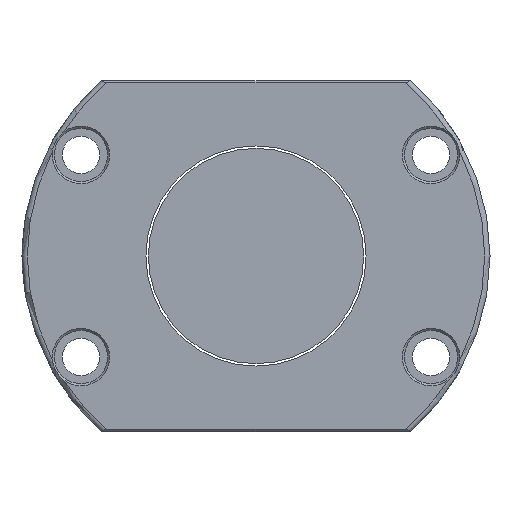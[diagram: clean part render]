
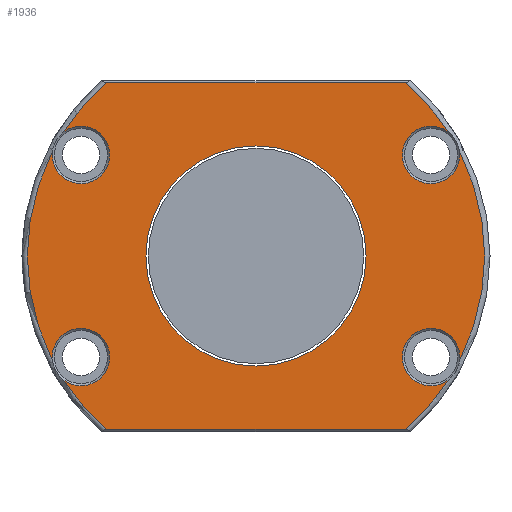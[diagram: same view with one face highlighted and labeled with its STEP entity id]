
A CAD part, left-side view. The second image highlights one B-rep face of the part: STEP entity #1936.
In plain terms, the highlighted planar face has unit normal (-1, 0, 0).
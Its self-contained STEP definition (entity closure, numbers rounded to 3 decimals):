
#54 = CARTESIAN_POINT ( 'NONE',  ( -105., -65.818, 38. ) ) ;
#88 = VERTEX_POINT ( 'NONE', #2648 ) ;
#92 = DIRECTION ( 'NONE',  ( -1., 0., 0. ) ) ;
#149 = EDGE_CURVE ( 'NONE', #1077, #3743, #2205, .T. ) ;
#151 = DIRECTION ( 'NONE',  ( 1., 0., 0. ) ) ;
#217 = DIRECTION ( 'NONE',  ( 1., 0., 0. ) ) ;
#225 = CIRCLE ( 'NONE', #3300, 10.8 ) ;
#247 = DIRECTION ( 'NONE',  ( -1., 0., 0. ) ) ;
#277 = CARTESIAN_POINT ( 'NONE',  ( -105., -76.552, -39.189 ) ) ;
#289 = DIRECTION ( 'NONE',  ( 0., 0., 1. ) ) ;
#298 = CARTESIAN_POINT ( 'NONE',  ( -105., -72.214, 46.702 ) ) ;
#299 = EDGE_CURVE ( 'NONE', #2656, #3572, #2005, .T. ) ;
#314 = DIRECTION ( 'NONE',  ( 1., 0., 0. ) ) ;
#399 = LINE ( 'NONE', #3733, #3169 ) ;
#447 = VERTEX_POINT ( 'NONE', #2845 ) ;
#470 = CARTESIAN_POINT ( 'NONE',  ( -105., 0., 0. ) ) ;
#520 = AXIS2_PLACEMENT_3D ( 'NONE', #3005, #3563, #1480 ) ;
#587 = PLANE ( 'NONE',  #1824 ) ;
#615 = DIRECTION ( 'NONE',  ( 0., 0., 1. ) ) ;
#846 = VERTEX_POINT ( 'NONE', #1829 ) ;
#952 = DIRECTION ( 'NONE',  ( 0., -1., 0. ) ) ;
#1026 = CIRCLE ( 'NONE', #3728, 10.8 ) ;
#1077 = VERTEX_POINT ( 'NONE', #1883 ) ;
#1146 = EDGE_LOOP ( 'NONE', ( #2878, #1468, #2007, #2521, #2839, #3570, #1838, #2173, #3454, #3648, #1450, #3333 ) ) ;
#1148 = DIRECTION ( 'NONE',  ( -1., 0., 0. ) ) ;
#1168 = DIRECTION ( 'NONE',  ( 0., 0., 1. ) ) ;
#1219 = EDGE_CURVE ( 'NONE', #2200, #2200, #1368, .T. ) ;
#1240 = DIRECTION ( 'NONE',  ( 1., 0., 0. ) ) ;
#1245 = CARTESIAN_POINT ( 'NONE',  ( -105., -56.08, -65.2 ) ) ;
#1273 = LINE ( 'NONE', #2848, #3593 ) ;
#1321 = DIRECTION ( 'NONE',  ( 0., 0., 1. ) ) ;
#1368 = CIRCLE ( 'NONE', #3166, 41.4 ) ;
#1369 = DIRECTION ( 'NONE',  ( 0., 0., 1. ) ) ;
#1439 = CIRCLE ( 'NONE', #3752, 86. ) ;
#1450 = ORIENTED_EDGE ( 'NONE', *, *, #3707, .T. ) ;
#1468 = ORIENTED_EDGE ( 'NONE', *, *, #3637, .T. ) ;
#1480 = DIRECTION ( 'NONE',  ( 0., 0., 1. ) ) ;
#1651 = VERTEX_POINT ( 'NONE', #2278 ) ;
#1746 = EDGE_CURVE ( 'NONE', #88, #2048, #3547, .T. ) ;
#1808 = VERTEX_POINT ( 'NONE', #1245 ) ;
#1815 = EDGE_CURVE ( 'NONE', #846, #2678, #3296, .T. ) ;
#1824 = AXIS2_PLACEMENT_3D ( 'NONE', #2071, #3034, #289 ) ;
#1829 = CARTESIAN_POINT ( 'NONE',  ( -105., 76.552, 39.189 ) ) ;
#1832 = FACE_OUTER_BOUND ( 'NONE', #1146, .T. ) ;
#1838 = ORIENTED_EDGE ( 'NONE', *, *, #2943, .T. ) ;
#1883 = CARTESIAN_POINT ( 'NONE',  ( -105., -72.214, -46.702 ) ) ;
#1888 = CIRCLE ( 'NONE', #3489, 86. ) ;
#1936 = ADVANCED_FACE ( 'NONE', ( #1832, #3642 ), #587, .T. ) ;
#1949 = AXIS2_PLACEMENT_3D ( 'NONE', #2863, #92, #2486 ) ;
#2005 = CIRCLE ( 'NONE', #3680, 86. ) ;
#2007 = ORIENTED_EDGE ( 'NONE', *, *, #149, .T. ) ;
#2048 = VERTEX_POINT ( 'NONE', #3297 ) ;
#2071 = CARTESIAN_POINT ( 'NONE',  ( -105., 88., 0. ) ) ;
#2083 = CARTESIAN_POINT ( 'NONE',  ( -105., 76.552, -39.189 ) ) ;
#2112 = EDGE_CURVE ( 'NONE', #3743, #447, #1888, .T. ) ;
#2158 = EDGE_CURVE ( 'NONE', #2635, #1651, #1439, .T. ) ;
#2173 = ORIENTED_EDGE ( 'NONE', *, *, #299, .T. ) ;
#2200 = VERTEX_POINT ( 'NONE', #3423 ) ;
#2205 = CIRCLE ( 'NONE', #2466, 10.8 ) ;
#2231 = CARTESIAN_POINT ( 'NONE',  ( -105., 65.818, 38. ) ) ;
#2233 = EDGE_CURVE ( 'NONE', #3572, #846, #225, .T. ) ;
#2267 = AXIS2_PLACEMENT_3D ( 'NONE', #2709, #2731, #2765 ) ;
#2278 = CARTESIAN_POINT ( 'NONE',  ( -105., -56.08, 65.2 ) ) ;
#2311 = ORIENTED_EDGE ( 'NONE', *, *, #1219, .T. ) ;
#2349 = CARTESIAN_POINT ( 'NONE',  ( -105., 56.08, 65.2 ) ) ;
#2466 = AXIS2_PLACEMENT_3D ( 'NONE', #2605, #151, #1369 ) ;
#2486 = DIRECTION ( 'NONE',  ( 0., 0., 1. ) ) ;
#2521 = ORIENTED_EDGE ( 'NONE', *, *, #2112, .T. ) ;
#2605 = CARTESIAN_POINT ( 'NONE',  ( -105., -65.818, -38. ) ) ;
#2635 = VERTEX_POINT ( 'NONE', #298 ) ;
#2648 = CARTESIAN_POINT ( 'NONE',  ( -105., 72.214, -46.702 ) ) ;
#2656 = VERTEX_POINT ( 'NONE', #2349 ) ;
#2678 = VERTEX_POINT ( 'NONE', #2083 ) ;
#2701 = EDGE_LOOP ( 'NONE', ( #2311 ) ) ;
#2703 = DIRECTION ( 'NONE',  ( 0., 0., 1. ) ) ;
#2709 = CARTESIAN_POINT ( 'NONE',  ( -105., 0., 0. ) ) ;
#2731 = DIRECTION ( 'NONE',  ( -1., 0., 0. ) ) ;
#2765 = DIRECTION ( 'NONE',  ( 0., 0., 1. ) ) ;
#2778 = CARTESIAN_POINT ( 'NONE',  ( -105., 0., 0. ) ) ;
#2786 = CARTESIAN_POINT ( 'NONE',  ( -105., 65.818, -38. ) ) ;
#2839 = ORIENTED_EDGE ( 'NONE', *, *, #3775, .T. ) ;
#2845 = CARTESIAN_POINT ( 'NONE',  ( -105., -76.552, 39.189 ) ) ;
#2848 = CARTESIAN_POINT ( 'NONE',  ( -105., 58.207, 65.2 ) ) ;
#2863 = CARTESIAN_POINT ( 'NONE',  ( -105., 0., 0. ) ) ;
#2877 = EDGE_CURVE ( 'NONE', #2048, #1808, #399, .T. ) ;
#2878 = ORIENTED_EDGE ( 'NONE', *, *, #2877, .T. ) ;
#2919 = DIRECTION ( 'NONE',  ( 0., 0., 1. ) ) ;
#2943 = EDGE_CURVE ( 'NONE', #1651, #2656, #1273, .T. ) ;
#2997 = CARTESIAN_POINT ( 'NONE',  ( -105., 0., 0. ) ) ;
#3005 = CARTESIAN_POINT ( 'NONE',  ( -105., 0., 0. ) ) ;
#3034 = DIRECTION ( 'NONE',  ( -1., 0., 0. ) ) ;
#3166 = AXIS2_PLACEMENT_3D ( 'NONE', #3506, #217, #3826 ) ;
#3169 = VECTOR ( 'NONE', #952, 1000. ) ;
#3196 = DIRECTION ( 'NONE',  ( -1., 0., 0. ) ) ;
#3207 = AXIS2_PLACEMENT_3D ( 'NONE', #2786, #3943, #3401 ) ;
#3275 = CIRCLE ( 'NONE', #520, 86. ) ;
#3296 = CIRCLE ( 'NONE', #1949, 86. ) ;
#3297 = CARTESIAN_POINT ( 'NONE',  ( -105., 56.08, -65.2 ) ) ;
#3300 = AXIS2_PLACEMENT_3D ( 'NONE', #2231, #1240, #1321 ) ;
#3333 = ORIENTED_EDGE ( 'NONE', *, *, #1746, .T. ) ;
#3339 = CIRCLE ( 'NONE', #3207, 10.8 ) ;
#3401 = DIRECTION ( 'NONE',  ( 0., 0., 1. ) ) ;
#3423 = CARTESIAN_POINT ( 'NONE',  ( -105., 0., -41.4 ) ) ;
#3454 = ORIENTED_EDGE ( 'NONE', *, *, #2233, .T. ) ;
#3489 = AXIS2_PLACEMENT_3D ( 'NONE', #2778, #1148, #1168 ) ;
#3506 = CARTESIAN_POINT ( 'NONE',  ( -105., 0., 0. ) ) ;
#3508 = CARTESIAN_POINT ( 'NONE',  ( -105., 72.214, 46.702 ) ) ;
#3547 = CIRCLE ( 'NONE', #2267, 86. ) ;
#3563 = DIRECTION ( 'NONE',  ( -1., 0., 0. ) ) ;
#3570 = ORIENTED_EDGE ( 'NONE', *, *, #2158, .T. ) ;
#3572 = VERTEX_POINT ( 'NONE', #3508 ) ;
#3593 = VECTOR ( 'NONE', #3712, 1000. ) ;
#3637 = EDGE_CURVE ( 'NONE', #1808, #1077, #3275, .T. ) ;
#3642 = FACE_BOUND ( 'NONE', #2701, .T. ) ;
#3648 = ORIENTED_EDGE ( 'NONE', *, *, #1815, .T. ) ;
#3680 = AXIS2_PLACEMENT_3D ( 'NONE', #470, #3196, #2919 ) ;
#3707 = EDGE_CURVE ( 'NONE', #2678, #88, #3339, .T. ) ;
#3712 = DIRECTION ( 'NONE',  ( 0., 1., 0. ) ) ;
#3728 = AXIS2_PLACEMENT_3D ( 'NONE', #54, #314, #615 ) ;
#3733 = CARTESIAN_POINT ( 'NONE',  ( -105., -58.207, -65.2 ) ) ;
#3743 = VERTEX_POINT ( 'NONE', #277 ) ;
#3752 = AXIS2_PLACEMENT_3D ( 'NONE', #2997, #247, #2703 ) ;
#3775 = EDGE_CURVE ( 'NONE', #447, #2635, #1026, .T. ) ;
#3826 = DIRECTION ( 'NONE',  ( 0., 0., -1. ) ) ;
#3943 = DIRECTION ( 'NONE',  ( 1., 0., 0. ) ) ;
